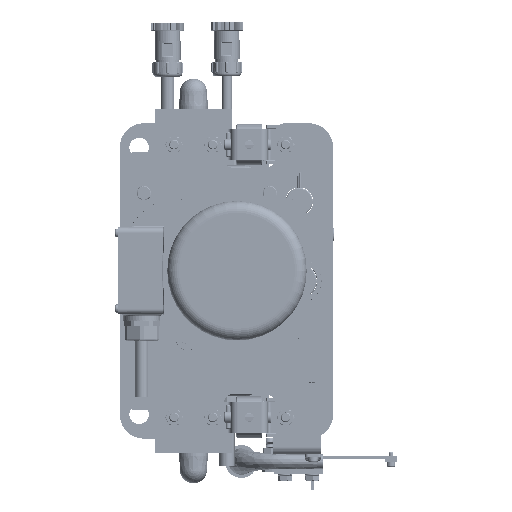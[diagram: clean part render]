
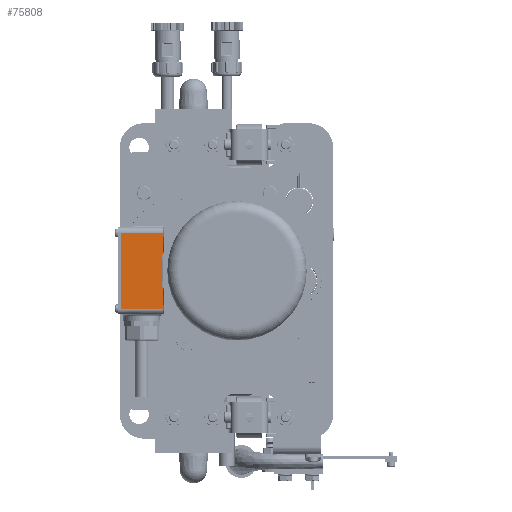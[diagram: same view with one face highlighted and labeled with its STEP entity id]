
A CAD part, left-side view. The second image highlights one B-rep face of the part: STEP entity #75808.
In plain terms, the highlighted planar face has unit normal (-1, 0, 0) as drawn and (0, 0, 1) by its records, which use the part's own axes.
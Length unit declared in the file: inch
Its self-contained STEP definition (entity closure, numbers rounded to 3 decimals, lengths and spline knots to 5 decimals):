
#4487 = DIRECTION ( 'NONE',  ( 0., 1., 0. ) ) ;
#20035 = PLANE ( 'NONE',  #158208 ) ;
#23490 = VECTOR ( 'NONE', #206820, 39.37008 ) ;
#24169 = CARTESIAN_POINT ( 'NONE',  ( -1.53543, 4.68504, 4.17323 ) ) ;
#25350 = VECTOR ( 'NONE', #4487, 39.37008 ) ;
#27981 = CARTESIAN_POINT ( 'NONE',  ( 1.77165, 4.68504, 4.17323 ) ) ;
#34016 = EDGE_CURVE ( 'NONE', #198099, #173902, #196311, .T. ) ;
#37386 = ORIENTED_EDGE ( 'NONE', *, *, #68416, .F. ) ;
#41175 = CARTESIAN_POINT ( 'NONE',  ( -1.53543, 3.0047, 4.17323 ) ) ;
#45807 = VERTEX_POINT ( 'NONE', #103277 ) ;
#49459 = ORIENTED_EDGE ( 'NONE', *, *, #34016, .T. ) ;
#55681 = DIRECTION ( 'NONE',  ( 0., -1., 0. ) ) ;
#59741 = VECTOR ( 'NONE', #55681, 39.37008 ) ;
#65895 = VERTEX_POINT ( 'NONE', #156826 ) ;
#68416 = EDGE_CURVE ( 'NONE', #198099, #161485, #94532, .T. ) ;
#75808 = ADVANCED_FACE ( 'NONE', ( #81397 ), #20035, .F. ) ;
#76129 = CARTESIAN_POINT ( 'NONE',  ( 1.74226, 3.00109, 4.17323 ) ) ;
#81397 = FACE_OUTER_BOUND ( 'NONE', #156640, .T. ) ;
#94532 = LINE ( 'NONE', #27981, #180440 ) ;
#95566 = ORIENTED_EDGE ( 'NONE', *, *, #154869, .T. ) ;
#100120 = CARTESIAN_POINT ( 'NONE',  ( -1.53543, 4.68504, 4.17323 ) ) ;
#103277 = CARTESIAN_POINT ( 'NONE',  ( 0., 3.0315, 4.17323 ) ) ;
#104870 = LINE ( 'NONE', #169353, #25350 ) ;
#107884 = LINE ( 'NONE', #76129, #141470 ) ;
#119974 = ORIENTED_EDGE ( 'NONE', *, *, #196518, .T. ) ;
#141470 = VECTOR ( 'NONE', #189239, 39.37008 ) ;
#145948 = CARTESIAN_POINT ( 'NONE',  ( 1.77165, 4.68504, 4.17323 ) ) ;
#148000 = DIRECTION ( 'NONE',  ( -1., 0., 0. ) ) ;
#148170 = CARTESIAN_POINT ( 'NONE',  ( 1.53543, 4.68504, 4.17323 ) ) ;
#154869 = EDGE_CURVE ( 'NONE', #65895, #161485, #104870, .T. ) ;
#156640 = EDGE_LOOP ( 'NONE', ( #178309, #119974, #95566, #37386, #49459 ) ) ;
#156826 = CARTESIAN_POINT ( 'NONE',  ( 1.53543, 3.0047, 4.17323 ) ) ;
#156978 = DIRECTION ( 'NONE',  ( 1., 0., 0. ) ) ;
#158208 = AXIS2_PLACEMENT_3D ( 'NONE', #145948, #178684, #148000 ) ;
#158238 = LINE ( 'NONE', #190959, #23490 ) ;
#161485 = VERTEX_POINT ( 'NONE', #148170 ) ;
#169353 = CARTESIAN_POINT ( 'NONE',  ( 1.53543, 4.68504, 4.17323 ) ) ;
#173902 = VERTEX_POINT ( 'NONE', #41175 ) ;
#174393 = EDGE_CURVE ( 'NONE', #173902, #45807, #158238, .T. ) ;
#178309 = ORIENTED_EDGE ( 'NONE', *, *, #174393, .T. ) ;
#178684 = DIRECTION ( 'NONE',  ( 0., 0., -1. ) ) ;
#180440 = VECTOR ( 'NONE', #156978, 39.37008 ) ;
#189239 = DIRECTION ( 'NONE',  ( 1., -0.017, 0. ) ) ;
#190959 = CARTESIAN_POINT ( 'NONE',  ( -0.00069, 3.03149, 4.17323 ) ) ;
#196311 = LINE ( 'NONE', #100120, #59741 ) ;
#196518 = EDGE_CURVE ( 'NONE', #45807, #65895, #107884, .T. ) ;
#198099 = VERTEX_POINT ( 'NONE', #24169 ) ;
#206820 = DIRECTION ( 'NONE',  ( 1., 0.017, 0. ) ) ;
